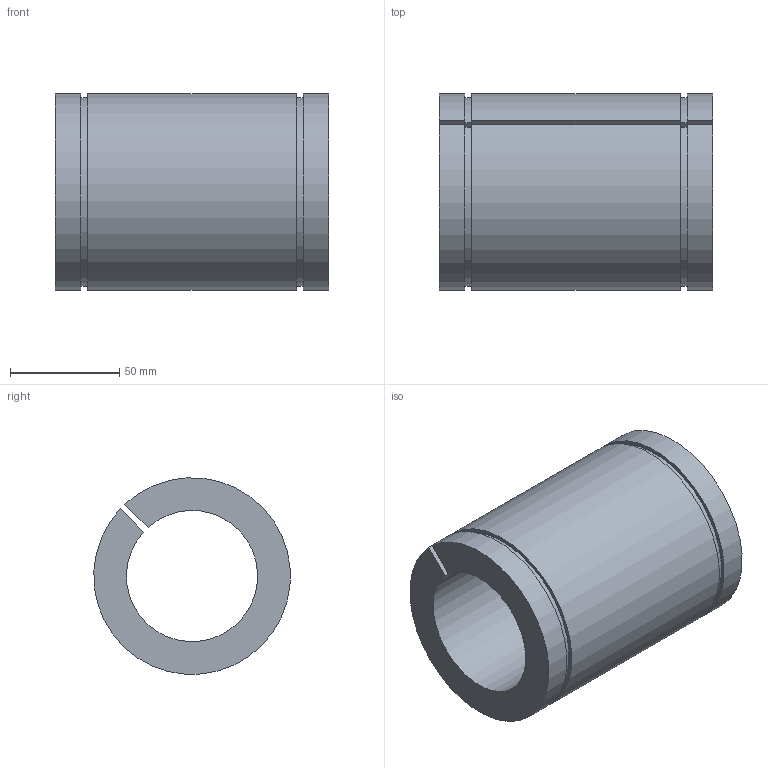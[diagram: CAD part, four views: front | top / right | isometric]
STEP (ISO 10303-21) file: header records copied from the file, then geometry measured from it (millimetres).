
FILE_DESCRIPTION( ( 'STEP AP203' ), '1' );
FILE_NAME( 'p:/temp/worker_87/temp/exporttempdir_3928_232_IKO4l/format_0/LME60UU-AJ.stp', '2020-04-29T03:24:34', ( 'License CC BY-ND 4.0' ), ( 'CADENAS' ), ' ', 'PARTsolutions', ' ' );
FILE_SCHEMA( ( 'CONFIG_CONTROL_DESIGN' ) );
Length unit declared in the file: millimetre
Products named in the file (1): _LME60UU-AJ
Bounding box: 125 x 89.78 x 89.78 mm (x, y, z)
Volume: 433136.4 mm3; surface area: 70714.7 mm2
Topology: 1 solids, 1 shells, 14 faces, 36 edges, 24 vertices
Faces by surface type: plane 8, cylinder 6
Entity records: 476 total; most frequent: DIRECTION 78, CARTESIAN_POINT 75, ORIENTED_EDGE 72, EDGE_CURVE 36, AXIS2_PLACEMENT_3D 27, VERTEX_POINT 24, LINE 24, VECTOR 24
